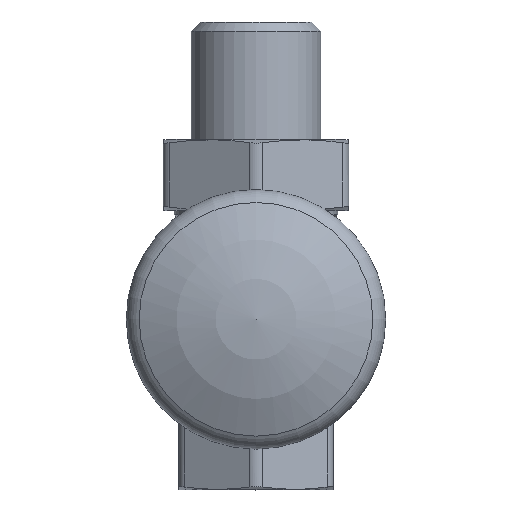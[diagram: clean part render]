
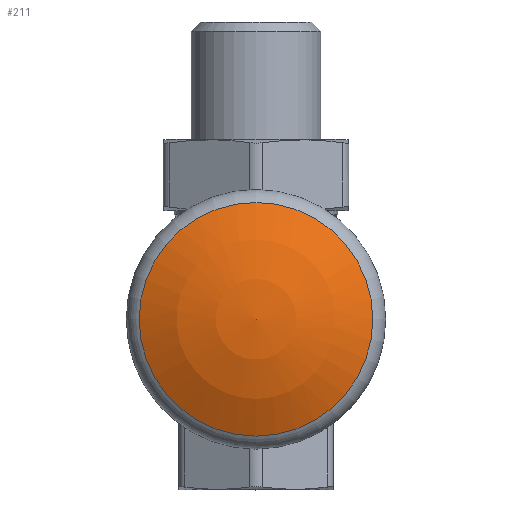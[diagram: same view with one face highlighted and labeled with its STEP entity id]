
A CAD part, top view. The second image highlights one B-rep face of the part: STEP entity #211.
In plain terms, the highlighted spherical face has radius 39.75 mm.
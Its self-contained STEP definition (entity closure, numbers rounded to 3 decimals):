
#211=ADVANCED_FACE('',(#3031),#3033,.T.);
#3031=FACE_OUTER_BOUND('',#3032,.T.);
#3032=EDGE_LOOP('',(#3989));
#3033=SPHERICAL_SURFACE('',#3034,39.75);
#3034=AXIS2_PLACEMENT_3D('',#3035,#3036,#3037);
#3035=CARTESIAN_POINT('',(0.,0.,20.35));
#3036=DIRECTION('',(0.,0.,-1.));
#3037=DIRECTION('',(0.,1.,0.));
#3989=ORIENTED_EDGE('',*,*,#4402,.F.);
#4402=EDGE_CURVE('',#5092,#5092,#5094,.T.);
#5092=VERTEX_POINT('',#10431);
#5094=CIRCLE('',#10436,18.902);
#10431=CARTESIAN_POINT('',(0.,18.902,55.318));
#10436=AXIS2_PLACEMENT_3D('',#10437,#10438,#10439);
#10437=CARTESIAN_POINT('',(0.,0.,55.318));
#10438=DIRECTION('',(0.,0.,-1.));
#10439=DIRECTION('',(0.,1.,0.));
